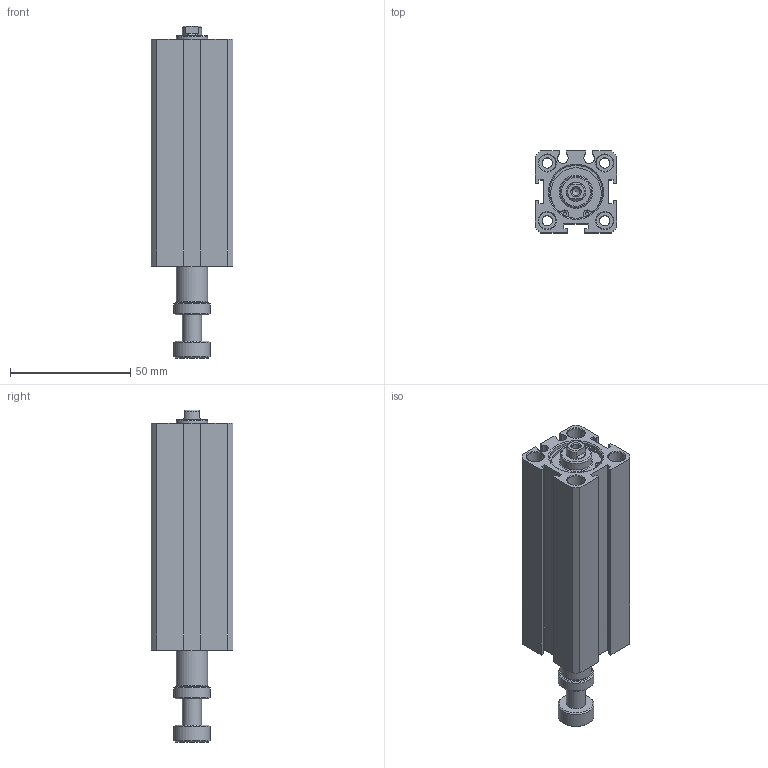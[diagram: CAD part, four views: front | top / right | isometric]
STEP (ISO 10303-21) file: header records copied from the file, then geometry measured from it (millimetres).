
FILE_DESCRIPTION((''),'2;1');
FILE_NAME('I:\3D電子目錄\氣缸\JDAR\JDAR\JDAR20\JDAR20x75.stp','2007-03-14T09:22:39',('662F206'),(''),'Autodesk Inventor 11','Autodesk Inventor 11','');
FILE_SCHEMA(('AUTOMOTIVE_DESIGN { 1 0 10303 214 1 1 1 1 }'));
Length unit declared in the file: millimetre
Products named in the file (3): JDAR20; R 形環 23
Assembly tree (3 placements, depth 2):
  JDAR20
    JDAR20
    R 形環 23  x2
Bounding box: 34 x 34 x 138.3 mm (x, y, z)
Volume: 93072.1 mm3; surface area: 29108.3 mm2
Topology: 3 solids, 3 shells, 148 faces, 336 edges, 218 vertices
Faces by surface type: plane 70, cylinder 49, cone 19, bspline 8, torus 2
Full cylindrical faces by diameter (mm): 1.5 x6, 4.3 x4, 7 x8, 8 x1, 13 x2, 15 x2, 22 x4, 23.2 x2
Entity records: 3721 total; most frequent: CARTESIAN_POINT 750, DIRECTION 626, ORIENTED_EDGE 494, AXIS2_PLACEMENT_3D 249, EDGE_CURVE 247, EDGE_LOOP 224, VERTEX_POINT 191, FACE_OUTER_BOUND 136
